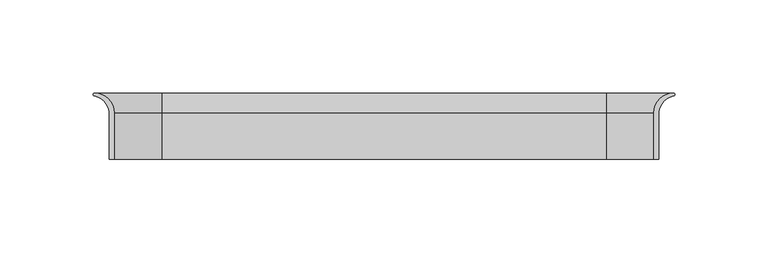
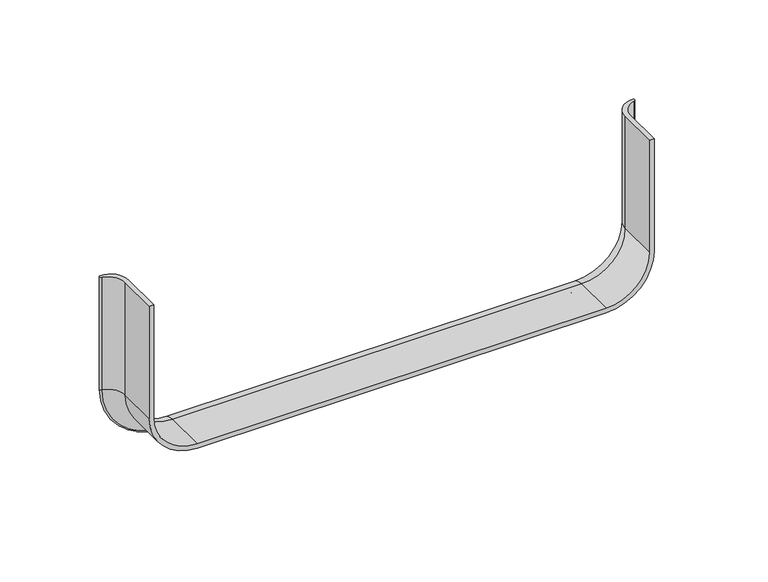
"""IFC4 building model written with IfcOpenShell, lengths in millimetres: cable carrier fitting geometry, CCT_Hyperline_FBTR-TSP Раструб для оптического лотка : Раструб для оптического лотка."""

from ifc_helpers import new_model, si_unit, point, frame, origin, place, context, project, spatial, polyline, circle_curve, ellipse_curve, trimmed, source, transform, mapped, element, save
from ifc_brep_helpers import plane_surface, cylinder_surface, revolved_surface, advanced_brep


def cable_carrier_fitting_965c9b59(model_context):
    return source(origin(), model_context, "Body", "AdvancedBrep", [
        advanced_brep(
        [(-147.46, 4.416055, 50.0), (-147.46, -19.5, 50.0), (-144.8920157, -19.5, 50.0), (-144.8920157, 5.5, 50.0), (-155.4986174, 16.1066017, 50.0), (-155.4986174, 14.6066017, 50.0), (-147.46, 4.416055, -19.46), (-147.46, -19.5, -19.46), (-119.46, -19.5, -47.46), (119.46, -19.5, -47.46), (147.46, -19.5, -19.46), (147.46, -19.5, 50.0), (144.8920157, -19.5, 50.0), (144.8920157, -19.5, -19.46), (119.46, -19.5, -44.8920157), (-119.46, -19.5, -44.8920157), (-144.8920157, -19.5, -19.46), (-119.46, 4.416055, -47.46), (119.46, 4.416055, -47.46), (147.46, 4.416055, -19.46), (147.46, 4.416055, 50.0), (155.4986174, 14.6066017, 50.0), (155.4986174, 16.1066017, 50.0), (144.8920157, 5.5, 50.0), (-144.8920157, 5.5, -19.46), (-155.4986174, 16.1066017, -19.46), (-155.4986174, 14.6066017, -19.46), (-119.46, 16.1066017, -55.4986174), (-119.46, 5.5, -44.8920157), (-119.46, 14.6066017, -55.4986174), (119.46, 5.5, -44.8920157), (119.46, 16.1066017, -55.4986174), (119.46, 14.6066017, -55.4986174), (155.4986174, 16.1066017, -19.46), (144.8920157, 5.5, -19.46), (155.4986174, 14.6066017, -19.46)],
        [
            (0, 1),
            (1, 2),
            (2, 3),
            (3, 4, circle_curve(frame((-155.4986174, 5.5, 50.0), z_axis=(0.0, 0.0, 1.0), x_axis=(0.0, -1.0, 0.0)), 10.6066017)),
            (4, 5, circle_curve(frame((-155.4986174, 15.3566017, 50.0), z_axis=(0.0, 0.0, 1.0), x_axis=(0.0, -1.0, 0.0)), 0.75)),
            (5, 0, circle_curve(frame((-157.9385814, 4.416055, 50.0), z_axis=(0.0, 0.0, -1.0), x_axis=(0.0, -1.0, 0.0)), 10.4785814)),
            (0, 6),
            (6, 7),
            (7, 1),
            (7, 8, circle_curve(frame((-119.46, -19.5, -19.46), z_axis=(0.0, -1.0, 0.0), x_axis=(-1.0, 0.0, 0.0)), 28.0)),
            (8, 9),
            (9, 10, circle_curve(frame((119.46, -19.5, -19.46), z_axis=(0.0, -1.0, 0.0), x_axis=(0.0, 0.0, -1.0)), 28.0)),
            (10, 11),
            (11, 12),
            (12, 13),
            (13, 14, circle_curve(frame((119.46, -19.5, -19.46), z_axis=(0.0, 1.0, 0.0), x_axis=(0.0, 0.0, -1.0)), 25.4320156)),
            (14, 15),
            (15, 16, circle_curve(frame((-119.46, -19.5, -19.46), z_axis=(0.0, 1.0, 0.0), x_axis=(-1.0, 0.0, 0.0)), 25.4320156)),
            (16, 2),
            (6, 17, circle_curve(frame((-119.46, 4.416055, -19.46), z_axis=(0.0, -1.0, 0.0), x_axis=(-1.0, 0.0, 0.0)), 28.0)),
            (17, 8),
            (17, 18),
            (18, 9),
            (18, 19, circle_curve(frame((119.46, 4.416055, -19.46), z_axis=(0.0, -1.0, 0.0), x_axis=(0.0, 0.0, -1.0)), 28.0)),
            (19, 10),
            (20, 21, circle_curve(frame((157.9385814, 4.416055, 50.0), z_axis=(0.0, 0.0, -1.0), x_axis=(0.0, -1.0, 0.0)), 10.4785814)),
            (21, 22, circle_curve(frame((155.4986174, 15.3566017, 50.0), z_axis=(0.0, 0.0, 1.0), x_axis=(0.0, -1.0, 0.0)), 0.75)),
            (22, 23, circle_curve(frame((155.4986174, 5.5, 50.0), z_axis=(0.0, 0.0, 1.0), x_axis=(0.0, -1.0, 0.0)), 10.6066017)),
            (23, 12),
            (11, 20),
            (19, 20),
            (3, 24),
            (24, 25, circle_curve(frame((-155.4986174, 5.5, -19.46), z_axis=(0.0, 0.0, 1.0), x_axis=(0.0, -1.0, 0.0)), 10.6066017)),
            (25, 4),
            (25, 26, circle_curve(frame((-155.4986174, 15.3566017, -19.46), z_axis=(0.0, 0.0, 1.0), x_axis=(0.0, -1.0, 0.0)), 0.75)),
            (26, 5),
            (26, 6, circle_curve(frame((-157.9385814, 4.416055, -19.46), z_axis=(0.0, 0.0, -1.0), x_axis=(0.0, -1.0, 0.0)), 10.4785814)),
            (27, 25, circle_curve(frame((-119.46, 16.1066017, -19.46), z_axis=(0.0, 1.0, 0.0), x_axis=(-1.0, 0.0, 0.0)), 36.0386174)),
            (24, 28, circle_curve(frame((-119.46, 5.5, -19.46), z_axis=(0.0, -1.0, 0.0), x_axis=(-1.0, 0.0, 0.0)), 25.4320156)),
            (28, 27, circle_curve(frame((-119.46, 5.5, -55.4986174), z_axis=(-1.0, 0.0, 0.0), x_axis=(0.0, -1.0, 0.0)), 10.6066017)),
            (29, 26, circle_curve(frame((-119.46, 14.6066017, -19.46), z_axis=(0.0, 1.0, 0.0), x_axis=(-1.0, 0.0, 0.0)), 36.0386174)),
            (27, 29, circle_curve(frame((-119.46, 15.3566017, -55.4986174), z_axis=(-1.0, 0.0, 0.0), x_axis=(0.0, -1.0, 0.0)), 0.75)),
            (29, 17, circle_curve(frame((-119.46, 4.416055, -57.9385814), z_axis=(1.0, 0.0, 0.0), x_axis=(0.0, -1.0, 0.0)), 10.4785814)),
            (28, 30),
            (30, 31, circle_curve(frame((119.46, 5.5, -55.4986174), z_axis=(-1.0, 0.0, 0.0), x_axis=(0.0, -1.0, 0.0)), 10.6066017)),
            (31, 27),
            (31, 32, circle_curve(frame((119.46, 15.3566017, -55.4986174), z_axis=(-1.0, 0.0, 0.0), x_axis=(0.0, -1.0, 0.0)), 0.75)),
            (32, 29),
            (32, 18, circle_curve(frame((119.46, 4.416055, -57.9385814), z_axis=(1.0, 0.0, 0.0), x_axis=(0.0, -1.0, 0.0)), 10.4785814)),
            (33, 31, circle_curve(frame((119.46, 16.1066017, -19.46), z_axis=(0.0, 1.0, 0.0), x_axis=(0.0, 0.0, -1.0)), 36.0386174)),
            (30, 34, circle_curve(frame((119.46, 5.5, -19.46), z_axis=(0.0, -1.0, 0.0), x_axis=(0.0, 0.0, -1.0)), 25.4320156)),
            (34, 33, circle_curve(frame((155.4986174, 5.5, -19.46), z_axis=(0.0, 0.0, -1.0), x_axis=(0.0, -1.0, 0.0)), 10.6066017)),
            (35, 32, circle_curve(frame((119.46, 14.6066017, -19.46), z_axis=(0.0, 1.0, 0.0), x_axis=(0.0, 0.0, -1.0)), 36.0386174)),
            (33, 35, circle_curve(frame((155.4986174, 15.3566017, -19.46), z_axis=(0.0, 0.0, -1.0), x_axis=(0.0, -1.0, 0.0)), 0.75)),
            (35, 19, circle_curve(frame((157.9385814, 4.416055, -19.46), z_axis=(0.0, 0.0, 1.0), x_axis=(0.0, -1.0, 0.0)), 10.4785814)),
            (34, 23),
            (22, 33),
            (21, 35),
            (16, 24),
            (15, 28),
            (14, 30),
            (13, 34),
        ],
        [
            plane_surface(frame((-147.46, 0.5, 50.0), z_axis=(0.0, 0.0, 1.0), x_axis=(0.0, -1.0, 0.0))),
            plane_surface(frame((-147.46, 4.416055, 50.0), z_axis=(-1.0, 0.0, 0.0), x_axis=(0.0, 0.0, -1.0))),
            plane_surface(frame((-147.46, -19.5, 50.0), z_axis=(0.0, -1.0, 0.0), x_axis=(0.0, 0.0, -1.0))),
            cylinder_surface(frame((-119.46, 0.5, -19.46), z_axis=(0.0, -1.0, 0.0), x_axis=(-1.0, 0.0, 0.0)), 28.0),
            plane_surface(frame((-119.46, 4.416055, -47.46), z_axis=(0.0, 0.0, -1.0), x_axis=(1.0, 0.0, 0.0))),
            cylinder_surface(frame((119.46, 0.5, -19.46), z_axis=(0.0, -1.0, 0.0), x_axis=(0.0, 0.0, -1.0)), 28.0),
            plane_surface(frame((147.46, 0.5, 50.0), z_axis=(0.0, 0.0, 1.0), x_axis=(0.0, -1.0, 0.0))),
            plane_surface(frame((147.46, 4.416055, -19.46), z_axis=(1.0, 0.0, 0.0), x_axis=(0.0, 0.0, 1.0))),
            cylinder_surface(frame((-155.4986174, 5.5, 50.0), z_axis=(0.0, 0.0, 1.0), x_axis=(0.0, -1.0, 0.0)), 10.6066017),
            cylinder_surface(frame((-155.4986174, 15.3566017, 50.0), z_axis=(0.0, 0.0, 1.0), x_axis=(0.0, -1.0, 0.0)), 0.75),
            revolved_surface(polyline([(-157.9385814, -6.062526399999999, -19.460000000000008), (-157.9385814, -6.062526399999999, 50.0)]), (-157.9385814, 4.416055, 50.0), (0.0, 0.0, -1.0)),
            revolved_surface(trimmed(ellipse_curve(frame((-155.4986174, 5.5, -19.46), z_axis=(0.0, 0.0, 1.0), x_axis=(0.0, -1.0, 0.0)), 10.6066017, 10.6066017), [point((-144.8920157, 5.5, -19.46))], [point((-155.4986174, 16.1066017, -19.46))], True, "CARTESIAN"), (-119.46, 0.5, -19.46), (0.0, -1.0, 0.0)),
            revolved_surface(trimmed(ellipse_curve(frame((-155.4986174, 15.3566017, -19.46), z_axis=(0.0, 0.0, 1.0), x_axis=(0.0, -1.0, 0.0)), 0.75, 0.75), [point((-155.4986174, 16.1066017, -19.46))], [point((-155.4986174, 14.6066017, -19.46))], True, "CARTESIAN"), (-119.46, 0.5, -19.46), (0.0, -1.0, 0.0)),
            revolved_surface(trimmed(ellipse_curve(frame((-157.9385814, 4.416055, -19.46), z_axis=(0.0, 0.0, -1.0), x_axis=(0.0, -1.0, 0.0)), 10.4785814, 10.4785814), [point((-155.4986174, 14.6066017, -19.46))], [point((-147.46, 4.416055, -19.46))], True, "CARTESIAN"), (-119.46, 0.5, -19.46), (0.0, -1.0, 0.0)),
            cylinder_surface(frame((-119.46, 5.5, -55.4986174), z_axis=(-1.0, 0.0, 0.0), x_axis=(0.0, -1.0, 0.0)), 10.6066017),
            cylinder_surface(frame((-119.46, 15.3566017, -55.4986174), z_axis=(-1.0, 0.0, 0.0), x_axis=(0.0, -1.0, 0.0)), 0.75),
            revolved_surface(polyline([(119.46, -6.062526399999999, -57.9385814), (-119.46, -6.062526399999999, -57.9385814)]), (-119.46, 4.416055, -57.9385814), (1.0, 0.0, 0.0)),
            revolved_surface(trimmed(ellipse_curve(frame((119.46, 5.5, -55.4986174), z_axis=(-1.0, 0.0, 0.0), x_axis=(0.0, -1.0, 0.0)), 10.6066017, 10.6066017), [point((119.46, 5.5, -44.8920157))], [point((119.46, 16.1066017, -55.4986174))], True, "CARTESIAN"), (119.46, 0.5, -19.46), (0.0, -1.0, 0.0)),
            revolved_surface(trimmed(ellipse_curve(frame((119.46, 15.3566017, -55.4986174), z_axis=(-1.0, 0.0, 0.0), x_axis=(0.0, -1.0, 0.0)), 0.75, 0.75), [point((119.46, 16.1066017, -55.4986174))], [point((119.46, 14.6066017, -55.4986174))], True, "CARTESIAN"), (119.46, 0.5, -19.46), (0.0, -1.0, 0.0)),
            revolved_surface(trimmed(ellipse_curve(frame((119.46, 4.416055, -57.9385814), z_axis=(1.0, 0.0, 0.0), x_axis=(0.0, -1.0, 0.0)), 10.4785814, 10.4785814), [point((119.46, 14.6066017, -55.4986174))], [point((119.46, 4.416055, -47.46))], True, "CARTESIAN"), (119.46, 0.5, -19.46), (0.0, -1.0, 0.0)),
            cylinder_surface(frame((155.4986174, 5.5, -19.46), z_axis=(0.0, 0.0, -1.0), x_axis=(0.0, -1.0, 0.0)), 10.6066017),
            cylinder_surface(frame((155.4986174, 15.3566017, -19.46), z_axis=(0.0, 0.0, -1.0), x_axis=(0.0, -1.0, 0.0)), 0.75),
            revolved_surface(polyline([(157.9385814, -6.062526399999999, 50.00000000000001), (157.9385814, -6.062526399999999, -19.46)]), (157.9385814, 4.416055, -19.46), (0.0, 0.0, 1.0)),
            plane_surface(frame((-144.8920157, -19.5, 50.0), z_axis=(1.0, 0.0, 0.0), x_axis=(0.0, 0.0, -1.0))),
            revolved_surface(polyline([(-144.89201559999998, -19.5, -19.46), (-144.89201559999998, 5.5, -19.46)]), (-119.46, 0.5, -19.46), (0.0, -1.0, 0.0)),
            plane_surface(frame((-119.46, -19.5, -44.8920157), z_axis=(0.0, 0.0, 1.0), x_axis=(1.0, 0.0, 0.0))),
            revolved_surface(polyline([(119.46, -19.5, -44.8920156), (119.46, 5.5, -44.8920156)]), (119.46, 0.5, -19.46), (0.0, -1.0, 0.0)),
            plane_surface(frame((144.8920157, -19.5, -19.46), z_axis=(-1.0, 0.0, 0.0), x_axis=(0.0, 0.0, 1.0))),
        ],
        [
            (0, [[1, 2, 3, 4, 5, 6]]),
            (1, [[-1, 7, 8, 9]]),
            (2, [[-2, -9, 10, 11, 12, 13, 14, 15, 16, 17, 18, 19]]),
            (3, [[-10, -8, 20, 21]]),
            (4, [[-21, 22, 23, -11]]),
            (5, [[-12, -23, 24, 25]]),
            (6, [[26, 27, 28, 29, -14, 30]]),
            (7, [[-25, 31, -30, -13]]),
            (8, [[-4, 32, 33, 34]]),
            (9, [[-5, -34, 35, 36]]),
            (10, [[-6, -36, 37, -7]]),
            (11, [[38, -33, 39, 40]]),
            (12, [[41, -35, -38, 42]]),
            (13, [[-20, -37, -41, 43]]),
            (14, [[-40, 44, 45, 46]]),
            (15, [[-42, -46, 47, 48]]),
            (16, [[-43, -48, 49, -22]]),
            (17, [[50, -45, 51, 52]]),
            (18, [[53, -47, -50, 54]]),
            (19, [[-24, -49, -53, 55]]),
            (20, [[-52, 56, -28, 57]]),
            (21, [[-54, -57, -27, 58]]),
            (22, [[-55, -58, -26, -31]]),
            (23, [[-3, -19, 59, -32]]),
            (24, [[-39, -59, -18, 60]]),
            (25, [[-60, -17, 61, -44]]),
            (26, [[-51, -61, -16, 62]]),
            (27, [[-62, -15, -29, -56]]),
        ],
    ),
    ])


if __name__ == "__main__":
    model = new_model("IFC4")
    model_context = context("Model", 3, world=origin())
    ifc_project = project(units=[si_unit("LENGTHUNIT", "METRE", prefix="MILLI")], contexts=[model_context])
    site = spatial("IfcSite", under=ifc_project)
    building = spatial("IfcBuilding", under=site)
    placement = place(None, origin())
    cable_carrier_fitting_shape = cable_carrier_fitting_965c9b59(model_context)
    element("IfcCableCarrierFitting", 1, ObjectType="CCT_Hyperline_FBTR-TSP Раструб для оптического лотка : Раструб для оптического лотка", at=placement, inside=building, context=model_context, shape_type="MappedRepresentation", body=[
        mapped(cable_carrier_fitting_shape, transform((0.0, 0.0, 0.0), x_axis=(1.0, 0.0, 0.0), y_axis=(0.0, 1.0, 0.0), z_axis=(0.0, 0.0, 1.0))),
    ])
    save(model, "model.ifc")
